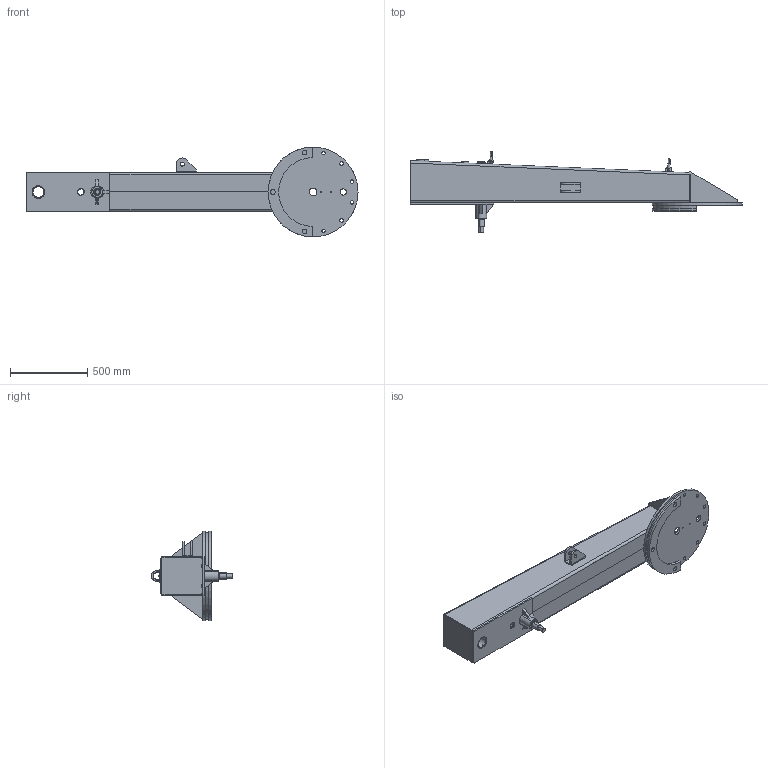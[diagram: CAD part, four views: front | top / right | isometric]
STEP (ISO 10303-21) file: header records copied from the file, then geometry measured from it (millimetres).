
FILE_DESCRIPTION (( 'STEP AP203' ), '1' );
FILE_NAME ('T-SP3.0-2HY-19´ó±Û×é¼þ.STEP', '2025-10-29T12:49:53', ( '' ), ( '' ), 'SwSTEP 2.0', 'SolidWorks 2018', '' );
FILE_SCHEMA (( 'CONFIG_CONTROL_DESIGN' ));
Length unit declared in the file: millimetre
Products named in the file (18): T-SP3.0-2HY-19-01-Q235湮旋酘殏俔啣; T-SP3.0-2HY-02-08-Q345湮旋蚐詰蟀諉啣; T-SP3.0-2HY-19-02-Q235湮旋衵殏俔啣; T-SP3.0-2HY-01-12-45#种粣; FXB-T8×130×62-Q345方形板; T-SP3.0-2HY-02-07-Q345湮旋澀啣; ZT-耳80-耳70-288-Q235粣杶; FXB-T5×266×246-Q235方形板; ZT-耳50-耳40-265-Q235粣杶; T-SP3.0-2HY-02-03-Q345湮旋楊擘攫; T-SP3.0-2HY-02-09-Q345源倛啣-儂樓; T-SP3.0-2HY-02-10-Q355B湮旋蚐詰蟀諉啣; T-SP3.0-2HY-02-06-Q345湮旋ヶ猾啣; SJB-T16×60×45-Q355B三角板; T-SP3.0-2HY-02-04-Q345大臂法兰盘固定板; T-SP3.0-2HY-19湮旋郪璃; 1.12T耀傯D倰遠; T-SP3.0-2HY-02-05-Q345湮旋埴說啣
Assembly tree (21 placements, depth 2):
  T-SP3.0-2HY-19湮旋郪璃
    T-SP3.0-2HY-19-01-Q235湮旋酘殏俔啣
    T-SP3.0-2HY-19-02-Q235湮旋衵殏俔啣
    T-SP3.0-2HY-02-03-Q345湮旋楊擘攫
    T-SP3.0-2HY-02-04-Q345大臂法兰盘固定板
    T-SP3.0-2HY-02-05-Q345湮旋埴說啣
    T-SP3.0-2HY-02-06-Q345湮旋ヶ猾啣
    FXB-T5×266×246-Q235方形板
    T-SP3.0-2HY-02-07-Q345湮旋澀啣  x2
    ZT-耳80-耳70-288-Q235粣杶
    ZT-耳50-耳40-265-Q235粣杶
    T-SP3.0-2HY-02-08-Q345湮旋蚐詰蟀諉啣
    T-SP3.0-2HY-02-09-Q345源倛啣-儂樓
    FXB-T8×130×62-Q345方形板
    1.12T耀傯D倰遠  x2
    T-SP3.0-2HY-02-10-Q355B湮旋蚐詰蟀諉啣
    T-SP3.0-2HY-01-12-45#种粣
    SJB-T16×60×45-Q355B三角板  x3
Bounding box: 2145.02 x 527.75 x 580 mm (x, y, z)
Volume: 18839295.6 mm3; surface area: 5275966.1 mm2
Topology: 23 solids, 23 shells, 319 faces, 778 edges, 504 vertices
Faces by surface type: plane 144, cylinder 128, cone 24, torus 12, bspline 11
Entity records: 10839 total; most frequent: CARTESIAN_POINT 1981, DIRECTION 1501, ORIENTED_EDGE 1364, EDGE_CURVE 682, AXIS2_PLACEMENT_3D 564, VERTEX_POINT 440, LINE 373, VECTOR 373
